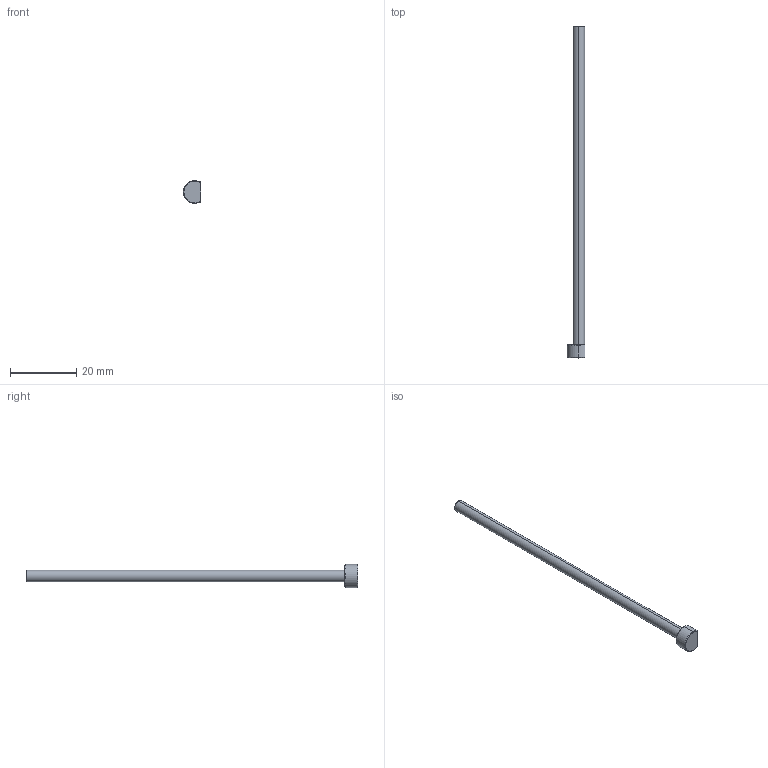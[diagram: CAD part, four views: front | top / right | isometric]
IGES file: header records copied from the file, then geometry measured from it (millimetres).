
Start section: SolidWorks IGES file using analytic representation for surfaces
Global section: file name: C:\Users\365admin\AppData\Local\Temp\InFlowConvert3DWorking\EPJ035L100-K.igs; native system: SolidWorks 2019; preprocessor: SolidWorks 2019; author: 365admin; date: 220405.095818; units: millimetre
Bounding box: 5.25 x 100 x 7 mm (x, y, z)
Surface area: 1196 mm2 (no closed solid volume)
Topology: 0 solids, 0 shells, 18 faces, 177 edges, 177 vertices
Faces by surface type: revolution 11, bspline 7
